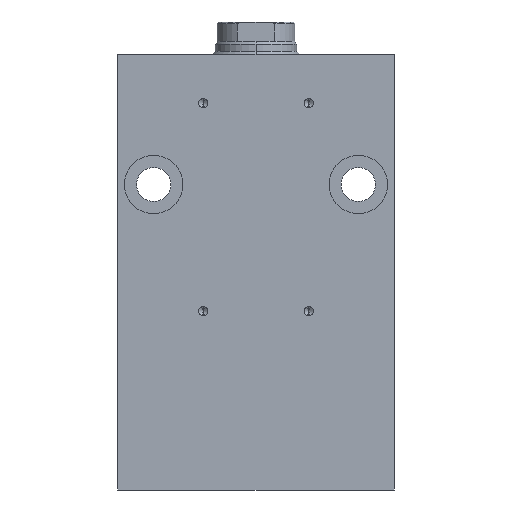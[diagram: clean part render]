
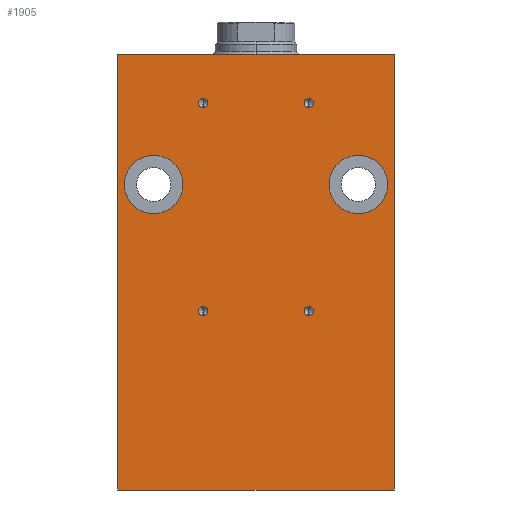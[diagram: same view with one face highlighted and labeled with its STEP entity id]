
A CAD part, left-side view. The second image highlights one B-rep face of the part: STEP entity #1905.
In plain terms, the highlighted planar face has unit normal (-1, 0, 0).
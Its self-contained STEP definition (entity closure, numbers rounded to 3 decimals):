
#1 = ORIENTED_EDGE ( 'NONE', *, *, #3513, .F. ) ;
#21 = DIRECTION ( 'NONE',  ( 0., 0., 1. ) ) ;
#100 = CARTESIAN_POINT ( 'NONE',  ( -31.5, -42.5, -144. ) ) ;
#176 = LINE ( 'NONE', #1216, #4548 ) ;
#252 = EDGE_CURVE ( 'NONE', #3161, #1986, #176, .T. ) ;
#257 = DIRECTION ( 'NONE',  ( 0., 0., 1. ) ) ;
#281 = CIRCLE ( 'NONE', #3671, 1.425 ) ;
#315 = VERTEX_POINT ( 'NONE', #2936 ) ;
#358 = EDGE_LOOP ( 'NONE', ( #3896, #4707 ) ) ;
#364 = AXIS2_PLACEMENT_3D ( 'NONE', #3952, #3904, #3934 ) ;
#394 = EDGE_LOOP ( 'NONE', ( #1818, #2863 ) ) ;
#495 = CARTESIAN_POINT ( 'NONE',  ( -31.5, -16.2, -26.425 ) ) ;
#503 = VERTEX_POINT ( 'NONE', #3699 ) ;
#508 = CARTESIAN_POINT ( 'NONE',  ( -31.5, -31.5, -41. ) ) ;
#516 = CARTESIAN_POINT ( 'NONE',  ( -31.5, -16.2, -23.575 ) ) ;
#577 = CARTESIAN_POINT ( 'NONE',  ( -31.5, 42.5, -144. ) ) ;
#587 = DIRECTION ( 'NONE',  ( -1., 0., 0. ) ) ;
#598 = VERTEX_POINT ( 'NONE', #3771 ) ;
#633 = CARTESIAN_POINT ( 'NONE',  ( -31.5, 16.2, -89. ) ) ;
#647 = EDGE_CURVE ( 'NONE', #2355, #1986, #2334, .T. ) ;
#652 = CARTESIAN_POINT ( 'NONE',  ( -31.5, 16.2, -25. ) ) ;
#746 = DIRECTION ( 'NONE',  ( -1., 0., 0. ) ) ;
#833 = ORIENTED_EDGE ( 'NONE', *, *, #1076, .F. ) ;
#845 = DIRECTION ( 'NONE',  ( 0., -1., 0. ) ) ;
#858 = VECTOR ( 'NONE', #1628, 1000. ) ;
#901 = FACE_BOUND ( 'NONE', #1027, .T. ) ;
#907 = DIRECTION ( 'NONE',  ( -1., 0., 0. ) ) ;
#914 = EDGE_CURVE ( 'NONE', #3860, #2386, #2273, .T. ) ;
#925 = FACE_BOUND ( 'NONE', #358, .T. ) ;
#940 = AXIS2_PLACEMENT_3D ( 'NONE', #4304, #907, #1696 ) ;
#1003 = CIRCLE ( 'NONE', #4303, 1.425 ) ;
#1015 = EDGE_CURVE ( 'NONE', #598, #3678, #3224, .T. ) ;
#1027 = EDGE_LOOP ( 'NONE', ( #3706, #1 ) ) ;
#1071 = CARTESIAN_POINT ( 'NONE',  ( -31.5, 42.5, -144. ) ) ;
#1076 = EDGE_CURVE ( 'NONE', #2386, #3860, #3303, .T. ) ;
#1093 = CIRCLE ( 'NONE', #940, 9. ) ;
#1097 = DIRECTION ( 'NONE',  ( -1., 0., 0. ) ) ;
#1114 = EDGE_LOOP ( 'NONE', ( #3085, #2590 ) ) ;
#1176 = CARTESIAN_POINT ( 'NONE',  ( -31.5, 42.5, -10. ) ) ;
#1216 = CARTESIAN_POINT ( 'NONE',  ( -31.5, 42.5, -10. ) ) ;
#1254 = AXIS2_PLACEMENT_3D ( 'NONE', #3961, #587, #4722 ) ;
#1256 = DIRECTION ( 'NONE',  ( 0., -1., 0. ) ) ;
#1284 = AXIS2_PLACEMENT_3D ( 'NONE', #1804, #1097, #4827 ) ;
#1292 = FACE_BOUND ( 'NONE', #394, .T. ) ;
#1406 = AXIS2_PLACEMENT_3D ( 'NONE', #633, #4097, #257 ) ;
#1495 = VERTEX_POINT ( 'NONE', #4030 ) ;
#1550 = ORIENTED_EDGE ( 'NONE', *, *, #647, .T. ) ;
#1580 = VERTEX_POINT ( 'NONE', #3318 ) ;
#1628 = DIRECTION ( 'NONE',  ( 0., 0., 1. ) ) ;
#1696 = DIRECTION ( 'NONE',  ( 0., 0., -1. ) ) ;
#1712 = CIRCLE ( 'NONE', #2488, 9. ) ;
#1772 = DIRECTION ( 'NONE',  ( 0., 0., 1. ) ) ;
#1804 = CARTESIAN_POINT ( 'NONE',  ( -31.5, 16.2, -25. ) ) ;
#1818 = ORIENTED_EDGE ( 'NONE', *, *, #2561, .F. ) ;
#1830 = DIRECTION ( 'NONE',  ( -1., 0., 0. ) ) ;
#1831 = DIRECTION ( 'NONE',  ( -1., 0., 0. ) ) ;
#1833 = EDGE_CURVE ( 'NONE', #4830, #4599, #1712, .T. ) ;
#1905 = ADVANCED_FACE ( 'NONE', ( #901, #4667, #1292, #2798, #925, #2827, #2449 ), #3951, .T. ) ;
#1917 = EDGE_CURVE ( 'NONE', #3888, #1580, #3417, .T. ) ;
#1936 = CARTESIAN_POINT ( 'NONE',  ( -31.5, 31.5, -50. ) ) ;
#1938 = ORIENTED_EDGE ( 'NONE', *, *, #4845, .T. ) ;
#1986 = VERTEX_POINT ( 'NONE', #4367 ) ;
#2002 = DIRECTION ( 'NONE',  ( -1., 0., 0. ) ) ;
#2051 = EDGE_CURVE ( 'NONE', #315, #2971, #4350, .T. ) ;
#2052 = DIRECTION ( 'NONE',  ( 0., 0., -1. ) ) ;
#2129 = DIRECTION ( 'NONE',  ( 0., 0., 1. ) ) ;
#2207 = CARTESIAN_POINT ( 'NONE',  ( -31.5, -16.2, -25. ) ) ;
#2221 = AXIS2_PLACEMENT_3D ( 'NONE', #4069, #746, #4533 ) ;
#2273 = CIRCLE ( 'NONE', #1254, 1.425 ) ;
#2313 = CARTESIAN_POINT ( 'NONE',  ( -31.5, -42.5, -144. ) ) ;
#2332 = CIRCLE ( 'NONE', #364, 9. ) ;
#2334 = LINE ( 'NONE', #2313, #858 ) ;
#2355 = VERTEX_POINT ( 'NONE', #100 ) ;
#2386 = VERTEX_POINT ( 'NONE', #495 ) ;
#2426 = VECTOR ( 'NONE', #2129, 1000. ) ;
#2449 = FACE_OUTER_BOUND ( 'NONE', #3230, .T. ) ;
#2467 = ORIENTED_EDGE ( 'NONE', *, *, #3507, .F. ) ;
#2488 = AXIS2_PLACEMENT_3D ( 'NONE', #3516, #2002, #2052 ) ;
#2543 = CARTESIAN_POINT ( 'NONE',  ( -31.5, -16.2, -89. ) ) ;
#2561 = EDGE_CURVE ( 'NONE', #3678, #598, #281, .T. ) ;
#2572 = DIRECTION ( 'NONE',  ( -1., 0., 0. ) ) ;
#2590 = ORIENTED_EDGE ( 'NONE', *, *, #2051, .F. ) ;
#2601 = DIRECTION ( 'NONE',  ( 0., 0., -1. ) ) ;
#2633 = ORIENTED_EDGE ( 'NONE', *, *, #914, .F. ) ;
#2798 = FACE_BOUND ( 'NONE', #1114, .T. ) ;
#2827 = FACE_BOUND ( 'NONE', #4307, .T. ) ;
#2863 = ORIENTED_EDGE ( 'NONE', *, *, #1015, .F. ) ;
#2906 = VECTOR ( 'NONE', #1256, 1000. ) ;
#2928 = VERTEX_POINT ( 'NONE', #508 ) ;
#2936 = CARTESIAN_POINT ( 'NONE',  ( -31.5, 16.2, -90.425 ) ) ;
#2966 = LINE ( 'NONE', #1071, #2426 ) ;
#2971 = VERTEX_POINT ( 'NONE', #4860 ) ;
#2986 = CIRCLE ( 'NONE', #4157, 9. ) ;
#3085 = ORIENTED_EDGE ( 'NONE', *, *, #3632, .F. ) ;
#3161 = VERTEX_POINT ( 'NONE', #1176 ) ;
#3199 = LINE ( 'NONE', #4602, #2906 ) ;
#3221 = DIRECTION ( 'NONE',  ( -1., 0., 0. ) ) ;
#3224 = CIRCLE ( 'NONE', #3543, 1.425 ) ;
#3230 = EDGE_LOOP ( 'NONE', ( #4576, #2467, #1938, #1550 ) ) ;
#3256 = AXIS2_PLACEMENT_3D ( 'NONE', #577, #3221, #4716 ) ;
#3260 = DIRECTION ( 'NONE',  ( -1., 0., 0. ) ) ;
#3303 = CIRCLE ( 'NONE', #4635, 1.425 ) ;
#3318 = CARTESIAN_POINT ( 'NONE',  ( -31.5, 16.2, -26.425 ) ) ;
#3417 = CIRCLE ( 'NONE', #1284, 1.425 ) ;
#3456 = EDGE_CURVE ( 'NONE', #503, #2928, #2332, .T. ) ;
#3507 = EDGE_CURVE ( 'NONE', #1495, #3161, #2966, .T. ) ;
#3509 = ORIENTED_EDGE ( 'NONE', *, *, #4765, .F. ) ;
#3513 = EDGE_CURVE ( 'NONE', #1580, #3888, #1003, .T. ) ;
#3516 = CARTESIAN_POINT ( 'NONE',  ( -31.5, 31.5, -50. ) ) ;
#3543 = AXIS2_PLACEMENT_3D ( 'NONE', #2543, #2572, #3735 ) ;
#3629 = CARTESIAN_POINT ( 'NONE',  ( -31.5, -16.2, -89. ) ) ;
#3632 = EDGE_CURVE ( 'NONE', #2971, #315, #4064, .T. ) ;
#3636 = DIRECTION ( 'NONE',  ( -1., 0., 0. ) ) ;
#3646 = CARTESIAN_POINT ( 'NONE',  ( -31.5, 31.5, -41. ) ) ;
#3671 = AXIS2_PLACEMENT_3D ( 'NONE', #3629, #3260, #1772 ) ;
#3678 = VERTEX_POINT ( 'NONE', #4588 ) ;
#3699 = CARTESIAN_POINT ( 'NONE',  ( -31.5, -31.5, -59. ) ) ;
#3706 = ORIENTED_EDGE ( 'NONE', *, *, #1917, .F. ) ;
#3735 = DIRECTION ( 'NONE',  ( 0., 0., 1. ) ) ;
#3771 = CARTESIAN_POINT ( 'NONE',  ( -31.5, -16.2, -90.425 ) ) ;
#3860 = VERTEX_POINT ( 'NONE', #516 ) ;
#3888 = VERTEX_POINT ( 'NONE', #4663 ) ;
#3896 = ORIENTED_EDGE ( 'NONE', *, *, #4799, .F. ) ;
#3904 = DIRECTION ( 'NONE',  ( -1., 0., 0. ) ) ;
#3934 = DIRECTION ( 'NONE',  ( 0., 0., -1. ) ) ;
#3951 = PLANE ( 'NONE',  #3256 ) ;
#3952 = CARTESIAN_POINT ( 'NONE',  ( -31.5, -31.5, -50. ) ) ;
#3961 = CARTESIAN_POINT ( 'NONE',  ( -31.5, -16.2, -25. ) ) ;
#4030 = CARTESIAN_POINT ( 'NONE',  ( -31.5, 42.5, -144. ) ) ;
#4064 = CIRCLE ( 'NONE', #1406, 1.425 ) ;
#4069 = CARTESIAN_POINT ( 'NONE',  ( -31.5, 16.2, -89. ) ) ;
#4097 = DIRECTION ( 'NONE',  ( -1., 0., 0. ) ) ;
#4157 = AXIS2_PLACEMENT_3D ( 'NONE', #1936, #1831, #2601 ) ;
#4303 = AXIS2_PLACEMENT_3D ( 'NONE', #652, #3636, #4439 ) ;
#4304 = CARTESIAN_POINT ( 'NONE',  ( -31.5, -31.5, -50. ) ) ;
#4307 = EDGE_LOOP ( 'NONE', ( #3509, #4440 ) ) ;
#4350 = CIRCLE ( 'NONE', #2221, 1.425 ) ;
#4367 = CARTESIAN_POINT ( 'NONE',  ( -31.5, -42.5, -10. ) ) ;
#4439 = DIRECTION ( 'NONE',  ( 0., 0., 1. ) ) ;
#4440 = ORIENTED_EDGE ( 'NONE', *, *, #1833, .F. ) ;
#4533 = DIRECTION ( 'NONE',  ( 0., 0., 1. ) ) ;
#4548 = VECTOR ( 'NONE', #845, 1000. ) ;
#4576 = ORIENTED_EDGE ( 'NONE', *, *, #252, .F. ) ;
#4588 = CARTESIAN_POINT ( 'NONE',  ( -31.5, -16.2, -87.575 ) ) ;
#4599 = VERTEX_POINT ( 'NONE', #3646 ) ;
#4602 = CARTESIAN_POINT ( 'NONE',  ( -31.5, 42.5, -144. ) ) ;
#4635 = AXIS2_PLACEMENT_3D ( 'NONE', #2207, #1830, #21 ) ;
#4651 = CARTESIAN_POINT ( 'NONE',  ( -31.5, 31.5, -59. ) ) ;
#4663 = CARTESIAN_POINT ( 'NONE',  ( -31.5, 16.2, -23.575 ) ) ;
#4667 = FACE_BOUND ( 'NONE', #4732, .T. ) ;
#4707 = ORIENTED_EDGE ( 'NONE', *, *, #3456, .F. ) ;
#4716 = DIRECTION ( 'NONE',  ( 0., 0., 1. ) ) ;
#4722 = DIRECTION ( 'NONE',  ( 0., 0., 1. ) ) ;
#4732 = EDGE_LOOP ( 'NONE', ( #2633, #833 ) ) ;
#4765 = EDGE_CURVE ( 'NONE', #4599, #4830, #2986, .T. ) ;
#4799 = EDGE_CURVE ( 'NONE', #2928, #503, #1093, .T. ) ;
#4827 = DIRECTION ( 'NONE',  ( 0., 0., 1. ) ) ;
#4830 = VERTEX_POINT ( 'NONE', #4651 ) ;
#4845 = EDGE_CURVE ( 'NONE', #1495, #2355, #3199, .T. ) ;
#4860 = CARTESIAN_POINT ( 'NONE',  ( -31.5, 16.2, -87.575 ) ) ;
